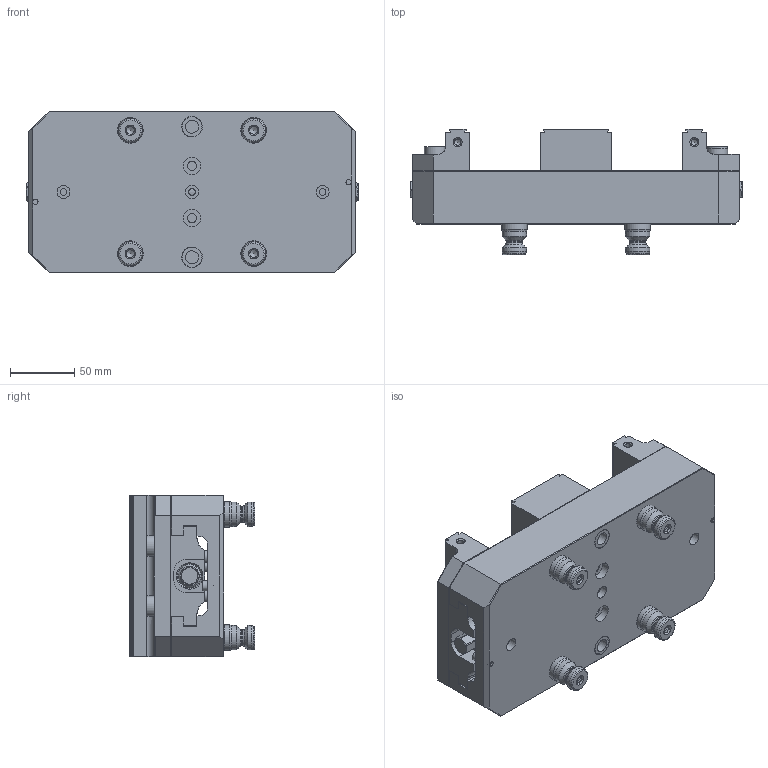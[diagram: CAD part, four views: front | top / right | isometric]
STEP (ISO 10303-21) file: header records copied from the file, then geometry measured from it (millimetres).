
FILE_DESCRIPTION (( 'STEP AP214' ), '1' );
FILE_NAME ('R96-DV510-J1_WEBSITE.STEP', '2025-08-12T16:06:20', ( '' ), ( '' ), 'SwSTEP 2.0', 'SolidWorks 2024', '' );
FILE_SCHEMA (( 'AUTOMOTIVE_DESIGN' ));
Length unit declared in the file: inch
Products named in the file (25): 76384_WEBSITE_91290A233; HW.BASE.PLUG.M8-1.25_WEBSITE_90278A411; V562M-2_WEBSITE_FINAL RIGHT -2RDV; V562M-5_WEBSITE_MILL OP 5 (HARD); V5104-1DV_WEBSITE_V510DV-1; HW.0375.FP_WEBSITE; M10X25.FPSS_WEBSITE_NO HEX; V562M-2_WEBSITE_FINAL LEFT; DV510^DV510-J1_WEBSITE_-JX; HW.M8X12.EPSS_WEBSITE_92775A312; LP8_WEBSITE_LP8; HW.76300_WEBSITE_76300; R96-DV510-J1_WEBSITE; 450-12_WEBSITE; V562M-5F_WEBSITE_MILL OP 6 (HARD); HW.09019_WEBSITE_92981A304; HW.LC049E03S_WEBSITE_DEFAULT; HW.M8X12.DP_WEBSITE_DEFAULT; V5104-5CDV_WEBSITE; PS20F-1_WEBSITE_HARD TURN; HW.0875X0750.DB_WEBSITE_8491A501; PS20F_WEBSITE; HW.JAW.PLUG_WEBSITE; V5104M-4_WEBSITE; DV510-3R_WEBSITE
Assembly tree (43 placements, depth 3):
  R96-DV510-J1_WEBSITE
    DV510^DV510-J1_WEBSITE_-JX
      V5104-1DV_WEBSITE_V510DV-1
      V562M-2_WEBSITE_FINAL RIGHT -2RDV
      V562M-2_WEBSITE_FINAL LEFT
      V5104M-4_WEBSITE
      HW.BASE.PLUG.M8-1.25_WEBSITE_90278A411  x2
      HW.0875X0750.DB_WEBSITE_8491A501  x2
      HW.M8X12.DP_WEBSITE_DEFAULT  x4
      HW.LC049E03S_WEBSITE_DEFAULT  x2
      HW.M8X12.EPSS_WEBSITE_92775A312  x2
      HW.0375.FP_WEBSITE  x2
      LP8_WEBSITE_LP8  x2
      76384_WEBSITE_91290A233  x2
      450-12_WEBSITE  x2
    DV510-3R_WEBSITE
      V562M-5_WEBSITE_MILL OP 5 (HARD)
      V562M-5F_WEBSITE_MILL OP 6 (HARD)
      V5104-5CDV_WEBSITE
      HW.76300_WEBSITE_76300  x4
      HW.JAW.PLUG_WEBSITE  x2
      HW.09019_WEBSITE_92981A304  x2
    PS20F_WEBSITE  x4
      PS20F-1_WEBSITE_HARD TURN
      M10X25.FPSS_WEBSITE_NO HEX
Bounding box: 258.32 x 97.66 x 125.73 mm (x, y, z)
Volume: 1424085.5 mm3; surface area: 285675.3 mm2
Topology: 43 solids, 43 shells, 971 faces, 2203 edges, 1380 vertices
Faces by surface type: plane 513, cylinder 222, cone 178, torus 39, bspline 11, sphere 8
Full cylindrical faces by diameter (mm): 3.454 x1, 4.2 x2, 5 x9, 5.5 x2, 5.969 x2, 6.147 x4, 6.8 x6, 7.137 x2, 7.493 x4, 7.992 x2, 8 x10, 8.016 x4, 8.019 x4, 8.128 x2, 8.5 x12, 8.912 x2, 9.144 x2, 9.195 x2, 9.474 x2, 9.576 x4, 9.957 x4, 10 x14, 10.013 x5, 10.2 x2, 10.719 x4, 12 x2, 12.497 x4, 13.487 x2, 13.894 x4, 14 x2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
Entity records: 22884 total; most frequent: CARTESIAN_POINT 5654, DIRECTION 2925, ORIENTED_EDGE 2488, EDGE_CURVE 1244, AXIS2_PLACEMENT_3D 1126, EDGE_LOOP 945, VERTEX_POINT 895, FACE_OUTER_BOUND 777
